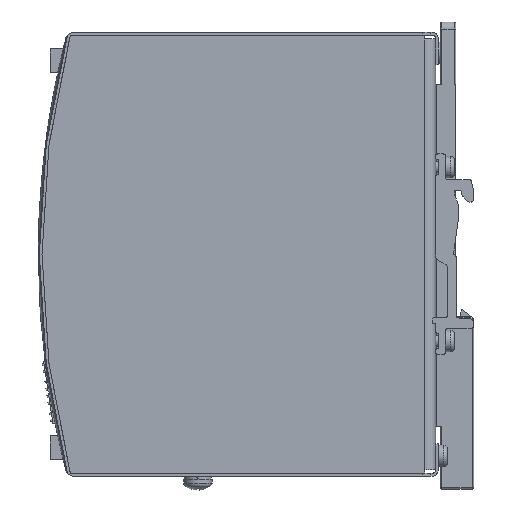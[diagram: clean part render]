
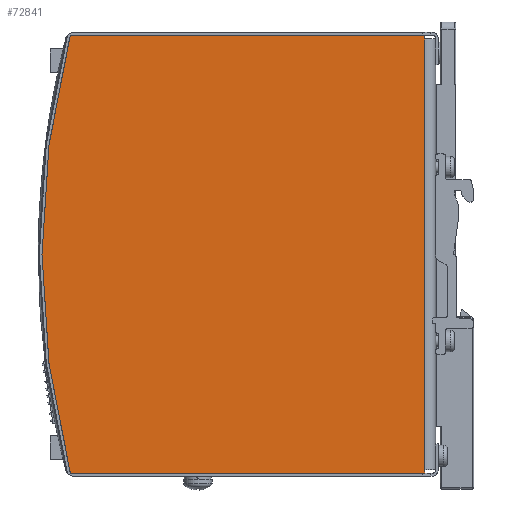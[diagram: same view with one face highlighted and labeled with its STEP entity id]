
A CAD part, left-side view. The second image highlights one B-rep face of the part: STEP entity #72841.
In plain terms, the highlighted planar face has unit normal (-1, 0, 0).
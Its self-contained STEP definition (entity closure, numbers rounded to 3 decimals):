
#4324=PLANE('',#76869);
#6929=FACE_OUTER_BOUND('',#10934,.T.);
#10934=EDGE_LOOP('',(#50153,#50154,#50155,#50156,#50157,#50158));
#15676=CIRCLE('',#76862,240.);
#17175=LINE('',#98011,#24399);
#17200=LINE('',#98081,#24424);
#17211=LINE('',#98105,#24435);
#17215=LINE('',#98114,#24439);
#17225=LINE('',#98142,#24449);
#24399=VECTOR('',#81484,120.3);
#24424=VECTOR('',#81549,1.);
#24435=VECTOR('',#81572,1.);
#24439=VECTOR('',#81580,99.079);
#24449=VECTOR('',#81616,99.079);
#31624=VERTEX_POINT('',#98008);
#31625=VERTEX_POINT('',#98010);
#31650=VERTEX_POINT('',#98080);
#31657=VERTEX_POINT('',#98103);
#31660=VERTEX_POINT('',#98113);
#31665=VERTEX_POINT('',#98131);
#38988=EDGE_CURVE('',#31625,#31624,#17175,.T.);
#39022=EDGE_CURVE('',#31650,#31625,#17200,.T.);
#39035=EDGE_CURVE('',#31624,#31657,#17211,.T.);
#39039=EDGE_CURVE('',#31660,#31650,#17215,.T.);
#39048=EDGE_CURVE('',#31665,#31660,#15676,.T.);
#39053=EDGE_CURVE('',#31657,#31665,#17225,.T.);
#50153=ORIENTED_EDGE('',*,*,#39048,.T.);
#50154=ORIENTED_EDGE('',*,*,#39039,.T.);
#50155=ORIENTED_EDGE('',*,*,#39022,.T.);
#50156=ORIENTED_EDGE('',*,*,#38988,.T.);
#50157=ORIENTED_EDGE('',*,*,#39035,.T.);
#50158=ORIENTED_EDGE('',*,*,#39053,.T.);
#72841=ADVANCED_FACE('',(#6929),#4324,.T.);
#76862=AXIS2_PLACEMENT_3D('',#98132,#81598,#81599);
#76869=AXIS2_PLACEMENT_3D('',#98141,#81614,#81615);
#81484=DIRECTION('',(0.,0.,1.));
#81549=DIRECTION('',(0.,0.,1.));
#81572=DIRECTION('',(0.,0.,1.));
#81580=DIRECTION('',(0.,-1.,0.));
#81598=DIRECTION('center_axis',(-1.,0.,0.));
#81599=DIRECTION('ref_axis',(0.,-0.967,0.255));
#81614=DIRECTION('center_axis',(-1.,0.,0.));
#81615=DIRECTION('ref_axis',(0.,0.,1.));
#81616=DIRECTION('',(0.,1.,0.));
#98008=CARTESIAN_POINT('',(-16.,3.,60.15));
#98010=CARTESIAN_POINT('',(-16.,3.,-60.15));
#98011=CARTESIAN_POINT('',(-16.,3.,-61.15));
#98080=CARTESIAN_POINT('',(-16.,3.,-61.15));
#98081=CARTESIAN_POINT('',(-16.,3.,-61.15));
#98103=CARTESIAN_POINT('',(-16.,3.,61.15));
#98105=CARTESIAN_POINT('',(-16.,3.,-61.15));
#98113=CARTESIAN_POINT('',(-16.,102.079,-61.15));
#98114=CARTESIAN_POINT('',(-16.,110.,-61.15));
#98131=CARTESIAN_POINT('',(-16.,102.079,61.15));
#98132=CARTESIAN_POINT('Origin',(-16.,-130.,0.));
#98141=CARTESIAN_POINT('Origin',(-16.,3.,-61.15));
#98142=CARTESIAN_POINT('',(-16.,110.,61.15));
